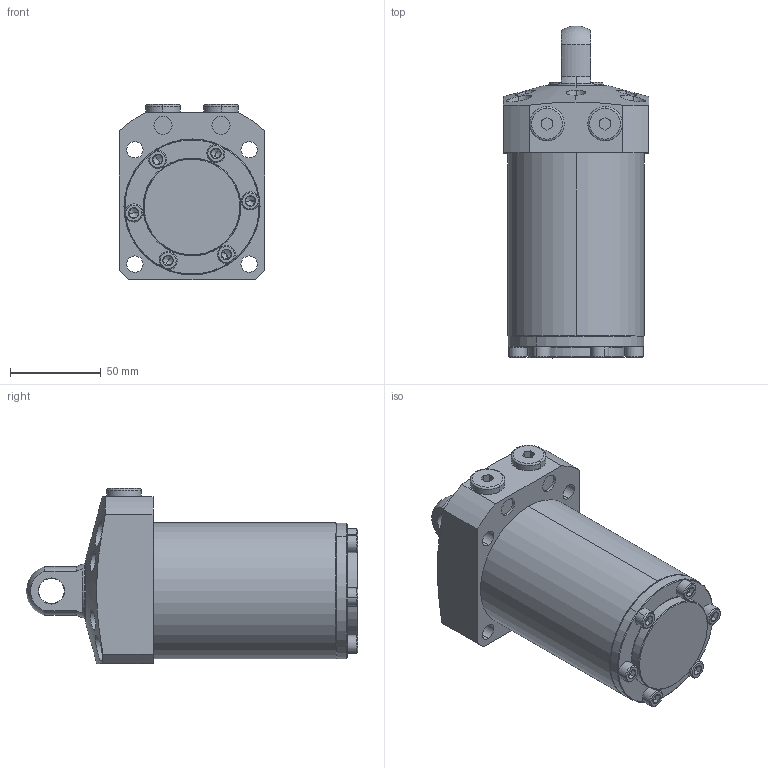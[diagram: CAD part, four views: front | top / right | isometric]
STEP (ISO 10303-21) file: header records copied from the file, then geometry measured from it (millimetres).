
FILE_DESCRIPTION (( 'STEP AP203' ), '1' );
FILE_NAME ('680750-CP-076.step', '2016-11-02T03:27:39', ( 'wxp' ), ( '' ), 'SwSTEP 2.0', 'SolidWorks 2011', '' );
FILE_SCHEMA (( 'CONFIG_CONTROL_DESIGN' ));
Length unit declared in the file: millimetre
Products named in the file (7): 680750-CP-076; 680750-CA-15-13^680750-CP-076; 68075-CA-76-6^680750-CP-076; 68075-CA-76-5^680750-CP-076; 68075-CA-76-4^680750-CP-076; 68075-CA-76-3^680750-CP-076; 68075-CA-76-1^680750-CP-076
Assembly tree (17 placements, depth 2):
  680750-CP-076
    68075-CA-76-5^680750-CP-076  x6
    680750-CA-15-13^680750-CP-076
    68075-CA-76-4^680750-CP-076  x6
    68075-CA-76-1^680750-CP-076
    68075-CA-76-3^680750-CP-076
    68075-CA-76-6^680750-CP-076  x2
Bounding box: 80 x 183 x 96.5 mm (x, y, z)
Volume: 728254.4 mm3; surface area: 97300.1 mm2
Topology: 17 solids, 17 shells, 546 faces, 1034 edges, 542 vertices
Faces by surface type: plane 233, cone 168, cylinder 127, torus 16, sphere 2
Entity records: 7595 total; most frequent: CARTESIAN_POINT 1929, DIRECTION 1071, ORIENTED_EDGE 872, AXIS2_PLACEMENT_3D 449, EDGE_CURVE 436, VERTEX_POINT 260, EDGE_LOOP 254, CIRCLE 219
